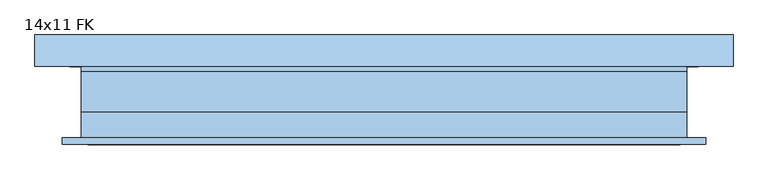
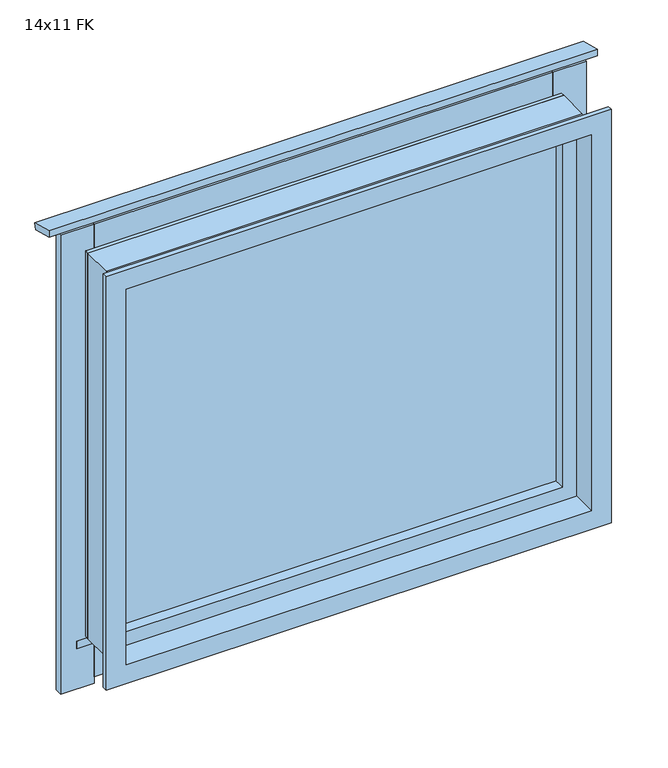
"""IFC4 building model written with IfcOpenShell, lengths in millimetres: window geometry, Vindu FK : 14x11 FK."""

from ifc_helpers import new_model, si_unit, frame, origin, place, context, project, spatial, polyline, outline, extrude, faceted_brep, source, transform, mapped, element, save


def window_14x11_fk_756d7259(model_context):
    return source(origin(), model_context, "Body", "SolidModel", [
        extrude(outline(polyline([(154.444437, 2789.1537013), (149.5268751, 2770.8011106), (82.0, 2788.8948822), (82.0, 2808.5651297), (154.444437, 2789.1537013)])), frame((-801.0, 0.0, 0.0), z_axis=(1.0, 0.0, 0.0), x_axis=(0.0, 1.0, 0.0)), (0.0, 0.0, 1.0), 1602.0),
        extrude(outline(polyline([(130.2962913, 1500.6791642), (124.6022723, 1479.4287961), (82.0, 1490.8440405), (82.0, 1513.6201165), (130.2962913, 1500.6791642)])), frame((-721.0, 0.0, 0.0), z_axis=(1.0, 0.0, 0.0), x_axis=(0.0, 1.0, 0.0)), (0.0, 0.0, 1.0), 1442.0),
        extrude(outline(polyline([(-670.0, 82.0), (-670.0, 104.0), (670.0, 104.0), (670.0, 82.0), (-670.0, 82.0)])), frame((0.0, 0.0, 1387.0051732), z_axis=(0.0, 0.0, 1.0), x_axis=(1.0, 0.0, 0.0)), (0.0, 0.0, 1.0), 98.0),
        extrude(outline(polyline([(-670.0, 82.0), (-670.0, 104.0), (670.0, 104.0), (670.0, 82.0), (-670.0, 82.0)])), frame((0.0, 0.0, 2685.0), z_axis=(0.0, 0.0, 1.0), x_axis=(1.0, 0.0, 0.0)), (0.0, 0.0, 1.0), 98.0),
        extrude(outline(polyline([(768.0, 82.0), (670.0, 82.0), (670.0, 104.0), (768.0, 104.0), (768.0, 82.0)])), frame((0.0, 0.0, 1367.0), z_axis=(0.0, 0.0, 1.0), x_axis=(1.0, 0.0, 0.0)), (0.0, 0.0, 1.0), 1416.0),
        extrude(outline(polyline([(-670.0, 82.0), (-768.0, 82.0), (-768.0, 104.0), (-670.0, 104.0), (-670.0, 82.0)])), frame((0.0, 0.0, 1367.0), z_axis=(0.0, 0.0, 1.0), x_axis=(1.0, 0.0, 0.0)), (0.0, 0.0, 1.0), 1416.0),
        extrude(outline(polyline([(-656.0, 34.0), (656.0, 34.0), (656.0, 10.0), (-656.0, 10.0), (-656.0, 34.0)])), frame((0.0, 0.0, 1559.0), z_axis=(0.0, 0.0, 1.0), x_axis=(1.0, 0.0, 0.0)), (0.0, 0.0, 1.0), 1112.0),
        faceted_brep([(-695.0, 70.0, 1520.0), (-695.0, -22.0, 1520.0), (-695.0, -22.0, 2710.0), (-695.0, 70.0, 2710.0), (-656.0, 10.0, 1559.0), (-656.0, 70.0, 1559.0), (-656.0, 70.0, 2671.0), (-656.0, 10.0, 2671.0), (-638.0, -22.0, 1577.0), (-638.0, 10.0, 1577.0), (-638.0, 10.0, 2653.0), (-638.0, -22.0, 2653.0), (695.0, -22.0, 2710.0), (695.0, 70.0, 2710.0), (656.0, 70.0, 2671.0), (656.0, 10.0, 2671.0), (638.0, 10.0, 2653.0), (638.0, -22.0, 2653.0), (695.0, -22.0, 1520.0), (695.0, 70.0, 1520.0), (656.0, 70.0, 1559.0), (656.0, 10.0, 1559.0), (638.0, 10.0, 1577.0), (638.0, -22.0, 1577.0)], [[[0, 1, 2, 3]], [[4, 5, 6, 7]], [[8, 9, 10, 11]], [[3, 2, 12, 13]], [[7, 6, 14, 15]], [[11, 10, 16, 17]], [[13, 12, 18, 19]], [[15, 14, 20, 21]], [[17, 16, 22, 23]], [[19, 18, 1, 0]], [[3, 13, 19, 0], [5, 20, 14, 6]], [[21, 20, 5, 4]], [[7, 15, 21, 4], [9, 22, 16, 10]], [[23, 22, 9, 8]], [[1, 18, 12, 2], [11, 17, 23, 8]]]),
        faceted_brep([(-695.0, -82.0, 1520.0), (-695.0, -22.0, 1520.0), (695.0, -22.0, 1520.0), (695.0, -82.0, 1520.0), (695.0, -22.0, 2710.0), (695.0, -82.0, 2710.0), (-695.0, -22.0, 2710.0), (680.0, -22.0, 2695.0), (-680.0, -22.0, 2695.0), (-680.0, -22.0, 1535.0), (680.0, -22.0, 1535.0), (738.0, -82.0, 1477.0), (-738.0, -82.0, 1477.0), (-738.0, -82.0, 2753.0), (738.0, -82.0, 2753.0), (-695.0, -82.0, 2710.0), (-738.0, -97.0, 1477.0), (738.0, -97.0, 1477.0), (738.0, -97.0, 2753.0), (-738.0, -97.0, 2753.0), (680.0, -97.0, 1535.0), (-680.0, -97.0, 1535.0), (-680.0, -97.0, 2695.0), (680.0, -97.0, 2695.0)], [[[0, 1, 2, 3]], [[3, 2, 4, 5]], [[2, 1, 6, 4], [7, 8, 9, 10]], [[11, 12, 13, 14], [5, 15, 0, 3]], [[16, 12, 11, 17]], [[17, 11, 14, 18]], [[18, 19, 16, 17], [20, 21, 22, 23]], [[9, 21, 20, 10]], [[10, 20, 23, 7]], [[15, 6, 1, 0]], [[19, 13, 12, 16]], [[8, 22, 21, 9]], [[5, 4, 6, 15]], [[18, 14, 13, 19]], [[7, 23, 22, 8]]]),
        extrude(outline(polyline([(1520.0, 670.0), (1520.0, 695.0), (2710.0, 695.0), (2710.0, -695.0), (1520.0, -695.0), (1520.0, -670.0), (2685.0, -670.0), (2685.0, 670.0), (1520.0, 670.0)])), frame((0.0, 70.0, 0.0), z_axis=(0.0, 1.0, 0.0), x_axis=(0.0, 0.0, 1.0)), (0.0, 0.0, 1.0), 12.0),
    ])


if __name__ == "__main__":
    model = new_model("IFC4")
    model_context = context("Model", 3, world=origin())
    ifc_project = project(units=[si_unit("LENGTHUNIT", "METRE", prefix="MILLI")], contexts=[model_context])
    site = spatial("IfcSite", under=ifc_project)
    building = spatial("IfcBuilding", under=site)
    placement = place(None, origin())
    window_14x11_fk_shape = window_14x11_fk_756d7259(model_context)
    element("IfcWindow", 1, ObjectType="Vindu FK : 14x11 FK", at=placement, inside=building, context=model_context, shape_type="MappedRepresentation", body=[
        mapped(window_14x11_fk_shape, transform((0.0, 0.0, 0.0), x_axis=(1.0, 0.0, 0.0), y_axis=(0.0, 1.0, 0.0), z_axis=(0.0, 0.0, 1.0))),
    ])
    save(model, "model.ifc")
